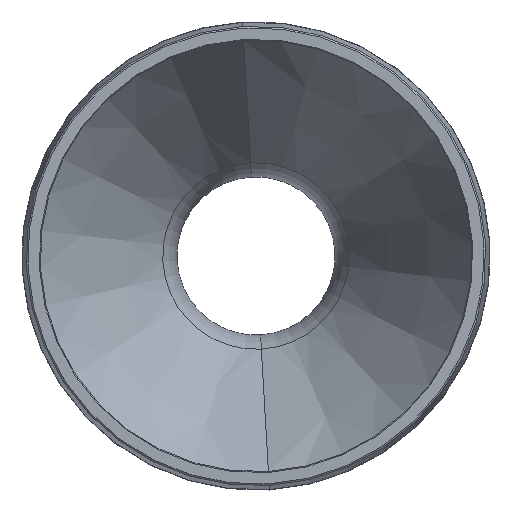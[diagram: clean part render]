
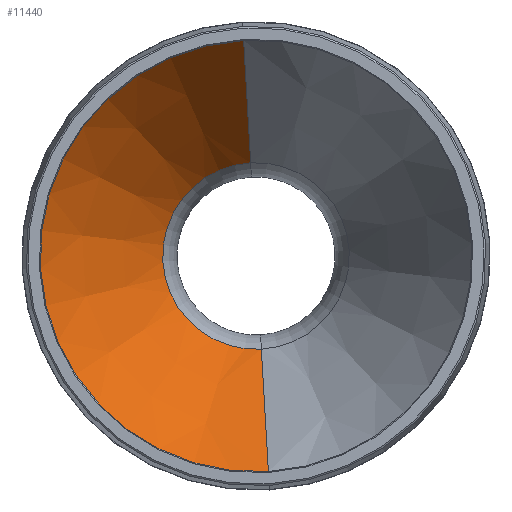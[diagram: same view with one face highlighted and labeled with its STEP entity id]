
A CAD part, left-side view. The second image highlights one B-rep face of the part: STEP entity #11440.
In plain terms, the highlighted conical face has half-angle 30.666 degrees and reference radius 36.25 mm.
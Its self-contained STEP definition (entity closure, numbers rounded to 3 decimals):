
#7410=CARTESIAN_POINT('',(34.915,1.733,
13.256));
#7420=VERTEX_POINT('',#7410);
#7510=CARTESIAN_POINT('',(36.44,1.733,
-13.256));
#7520=VERTEX_POINT('',#7510);
#7550=CARTESIAN_POINT('',(35.678,1.733,
0.));
#7560=DIRECTION('',(-0.,-1.,0.));
#7570=DIRECTION('',(0.057,0.,-0.998));
#7580=AXIS2_PLACEMENT_3D('',#7550,#7560,#7570);
#7590=CIRCLE('',#7580,13.278);
#7600=EDGE_CURVE('',#7420,#7520,#7590,.T.);
#10990=CARTESIAN_POINT('',(33.913,-27.667,
30.66));
#11000=VERTEX_POINT('',#10990);
#11030=CARTESIAN_POINT('',(35.678,-27.667,
0.));
#11040=DIRECTION('',(-0.,-1.,0.));
#11050=DIRECTION('',(0.057,0.,-0.998));
#11060=AXIS2_PLACEMENT_3D('',#11030,#11040,#11050);
#11070=CIRCLE('',#11060,30.711);
#11080=CARTESIAN_POINT('',(37.442,-27.667,
-30.66));
#11090=VERTEX_POINT('',#11080);
#11100=EDGE_CURVE('',#11000,#11090,#11070,.T.);
#11230=CARTESIAN_POINT('',(35.678,-37.009,
0.));
#11240=DIRECTION('',(0.,-1.,0.));
#11250=DIRECTION('',(0.057,0.,-0.998));
#11260=AXIS2_PLACEMENT_3D('',#11230,#11240,#11250);
#11270=CONICAL_SURFACE('',#11260,36.25,0.535);
#11280=CARTESIAN_POINT('',(37.76,-37.009,
-36.19));
#11290=DIRECTION('',(0.029,-0.86,
-0.509));
#11300=VECTOR('',#11290,71.073);
#11310=LINE('',#11280,#11300);
#11320=EDGE_CURVE('',#7520,#11090,#11310,.T.);
#11330=ORIENTED_EDGE('',*,*,#11320,.F.);
#11340=ORIENTED_EDGE('',*,*,#11100,.T.);
#11350=CARTESIAN_POINT('',(33.595,-37.009,
36.19));
#11360=DIRECTION('',(-0.029,-0.86,
0.509));
#11370=VECTOR('',#11360,71.073);
#11380=LINE('',#11350,#11370);
#11390=EDGE_CURVE('',#7420,#11000,#11380,.T.);
#11400=ORIENTED_EDGE('',*,*,#11390,.T.);
#11410=ORIENTED_EDGE('',*,*,#7600,.F.);
#11420=EDGE_LOOP('',(#11410,#11400,#11340,#11330));
#11430=FACE_OUTER_BOUND('',#11420,.T.);
#11440=ADVANCED_FACE('',(#11430),#11270,.F.);
